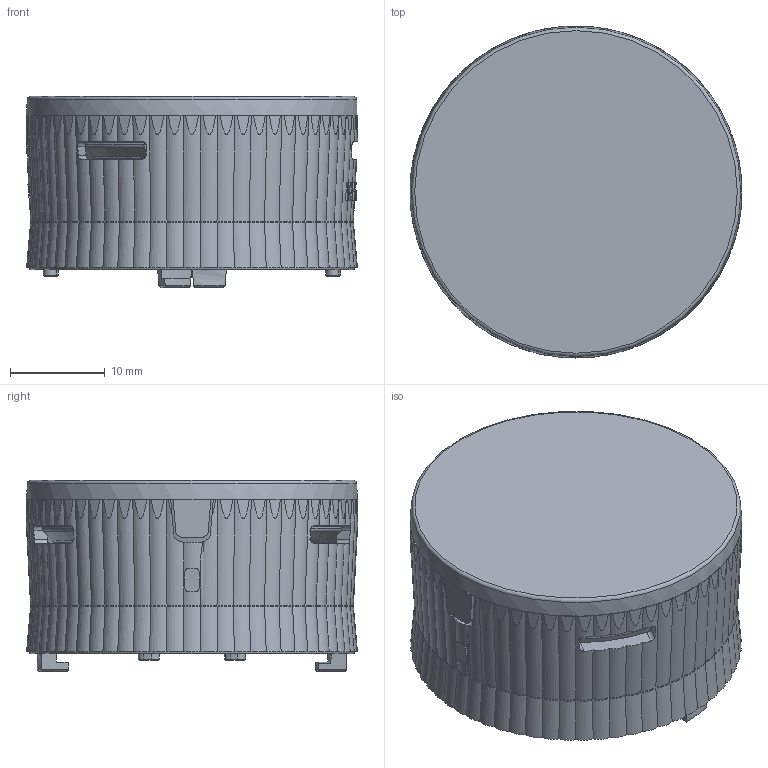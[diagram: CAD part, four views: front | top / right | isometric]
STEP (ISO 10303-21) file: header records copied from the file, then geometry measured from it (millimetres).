
FILE_DESCRIPTION(('STEP AP214'),'1');
FILE_NAME('FLORA35XX_only mechanic.stp','2025-11-04T07:43:19',(' '),(' '),'Spatial InterOp 3D',' ',' ');
FILE_SCHEMA(('AUTOMOTIVE_DESIGN { 1 0 10303 214 1 1 1 1 }'));
Length unit declared in the file: metre
Products named in the file (2): 1759847059; 1738885465
Bounding box: 35 x 35 x 20.15 mm (x, y, z)
Volume: 14340.8 mm3; surface area: 7789.1 mm2
Topology: 2 solids, 2 shells, 520 faces, 1506 edges, 996 vertices
Faces by surface type: cylinder 191, plane 127, bspline 124, extrusion 38, cone 29, torus 10, revolution 1
Full cylindrical faces by diameter (mm): 18.4 x1
Entity records: 28639 total; most frequent: CARTESIAN_POINT 11648, ORIENTED_EDGE 2980, DIRECTION 2431, EDGE_CURVE 1490, AXIS2_PLACEMENT_3D 1065, VERTEX_POINT 989, B_SPLINE_CURVE_WITH_KNOTS 561, EDGE_LOOP 547
